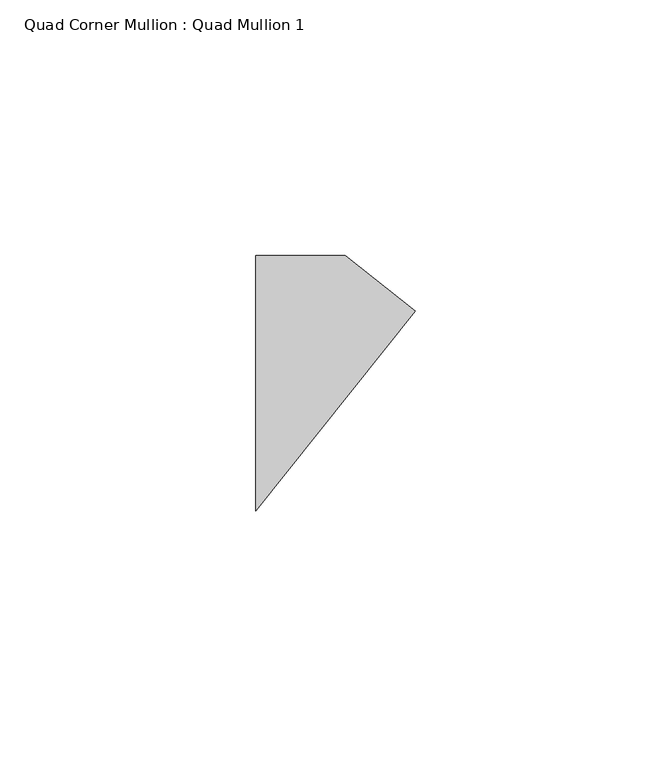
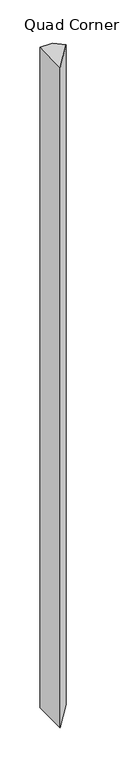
"""IFC4 building model written with IfcOpenShell, lengths in millimetres: member geometry, Quad Corner Mullion : Quad Mullion 1."""

import ifcopenshell
import ifcopenshell.guid

model = None  # the IFC model being written
_history = None  # IfcOwnerHistory: only IFC2X3 demands one
_inside = {}  # id of a spatial element -> (the spatial element, [elements in it])
_under = {}  # id of a project, library or spatial element -> (it, [spatial elements below it])
_declared = {}  # id of a project -> (the project, [libraries it declares])
_typed = {}  # id of a type object -> (the type object, [elements of that type])
_made_of = {}  # id of a material, layer set ... -> (it, [elements and type objects made of it])


def new_model(schema):
    """Start an empty IFC model of exactly this schema.

    Asked for "IFC4X3", IfcOpenShell would pick the latest addendum, in which some entities
    have other attributes; the version numbers below select the first issue.
    IFC2X3 requires an IfcOwnerHistory on every rooted entity: one is made here for all.
    """
    global model, _history
    if schema == "IFC4X3":
        model = ifcopenshell.file(schema_version=(4, 3, 0, 0))
    else:
        model = ifcopenshell.file(schema=schema)
    _inside.clear()
    _under.clear()
    _declared.clear()
    _typed.clear()
    _made_of.clear()
    _history = None
    if model.schema == "IFC2X3":
        org = make("IfcOrganization", Name="unknown")
        user = make(
            "IfcPersonAndOrganization",
            ThePerson=make("IfcPerson", FamilyName="unknown"),
            TheOrganization=org,
        )
        app = make(
            "IfcApplication",
            ApplicationDeveloper=org,
            Version="unknown",
            ApplicationFullName="unknown",
            ApplicationIdentifier="unknown",
        )
        _history = make(
            "IfcOwnerHistory",
            OwningUser=user,
            OwningApplication=app,
            ChangeAction="ADDED",
            CreationDate=0,
        )
    return model


def make(cls, **values):
    """One entity of the class cls with the attributes given. An attribute that is None is left unset."""
    return model.create_entity(
        cls, **{name: value for name, value in values.items() if value is not None}
    )


def rooted(cls, **values):
    """An entity with a GlobalId (a new one), such as an element, a storey or a relation."""
    return make(cls, GlobalId=ifcopenshell.guid.new(), OwnerHistory=_history, **values)


def si_unit(unit_type, name, prefix=None):
    """IfcSIUnit, for example si_unit("LENGTHUNIT", "METRE", prefix="MILLI")."""
    return make("IfcSIUnit", UnitType=unit_type, Prefix=prefix, Name=name)


def assignment(units):
    """IfcUnitAssignment: the units of a project."""
    return None if units is None else make("IfcUnitAssignment", Units=units)


def point(xyz):
    """IfcCartesianPoint."""
    return None if xyz is None else make("IfcCartesianPoint", Coordinates=xyz)


def direction(xyz):
    """IfcDirection."""
    return None if xyz is None else make("IfcDirection", DirectionRatios=xyz)


def frame(location, z_axis=None, x_axis=None):
    """IfcAxis2Placement3D, a coordinate frame: its origin and axes. An axis left out is left unset."""
    return make(
        "IfcAxis2Placement3D",
        Location=point(location),
        Axis=direction(z_axis),
        RefDirection=direction(x_axis),
    )


def origin():
    """The frame at (0, 0, 0) with its axes left unset."""
    return frame((0.0, 0.0, 0.0))


def place(relative_to, where):
    """IfcLocalPlacement: puts the frame where relative to a parent placement (None: the world)."""
    return make(
        "IfcLocalPlacement", PlacementRelTo=relative_to, RelativePlacement=where
    )


def context(
    kind, dimensions, precision=None, world=None, true_north=None, identifier=None
):
    """IfcGeometricRepresentationContext, for example the 3D "Model" context."""
    return make(
        "IfcGeometricRepresentationContext",
        ContextIdentifier=identifier,
        ContextType=kind,
        CoordinateSpaceDimension=dimensions,
        Precision=precision,
        WorldCoordinateSystem=world,
        TrueNorth=true_north,
    )


def project(units=None, contexts=None):
    """IfcProject with its units and contexts."""
    return rooted(
        "IfcProject",
        Name="project",
        RepresentationContexts=contexts,
        UnitsInContext=assignment(units),
    )


def spatial(cls, under=None, at=None, **own):
    """A site, building, storey or space (cls), placed at a placement, below another one or the project."""
    s = rooted(cls, ObjectPlacement=at, **own)
    if under is not None:
        _under.setdefault(under.id(), (under, []))[1].append(s)
    return s


def polyline(points):
    """IfcPolyline through the points."""
    return make("IfcPolyline", Points=[point(p) for p in points])


def outline(outer, holes=None, kind="AREA"):
    """IfcArbitraryClosedProfileDef: a profile drawn as a closed curve; with holes, ...WithVoids."""
    if holes is None:
        return make("IfcArbitraryClosedProfileDef", ProfileType=kind, OuterCurve=outer)
    return make(
        "IfcArbitraryProfileDefWithVoids",
        ProfileType=kind,
        OuterCurve=outer,
        InnerCurves=holes,
    )


def extrude(swept, where, along, depth):
    """IfcExtrudedAreaSolid: the profile swept, set in the frame where, extruded along a direction by depth."""
    return make(
        "IfcExtrudedAreaSolid",
        SweptArea=swept,
        Position=where,
        ExtrudedDirection=direction(along),
        Depth=depth,
    )


def shape(context_of_items, identifier, shape_type, items):
    """IfcShapeRepresentation: the items that make up one representation, for example the "Body"."""
    return make(
        "IfcShapeRepresentation",
        ContextOfItems=context_of_items,
        RepresentationIdentifier=identifier,
        RepresentationType=shape_type,
        Items=items,
    )


def source(mapping_origin, context_of_items, identifier, shape_type, items):
    """IfcRepresentationMap: a shape defined once, which mapped items show again and again."""
    return make(
        "IfcRepresentationMap",
        MappingOrigin=mapping_origin,
        MappedRepresentation=shape(context_of_items, identifier, shape_type, items),
    )


def transform(
    local_origin,
    x_axis=None,
    y_axis=None,
    z_axis=None,
    scale=None,
    scale2=None,
    scale3=None,
    uniform=True,
):
    """IfcCartesianTransformationOperator3D, or its non-uniform kind. x_axis, y_axis, z_axis: its Axis1, 2, 3."""
    if uniform:
        return make(
            "IfcCartesianTransformationOperator3D",
            Axis1=direction(x_axis),
            Axis2=direction(y_axis),
            LocalOrigin=point(local_origin),
            Scale=scale,
            Axis3=direction(z_axis),
        )
    return make(
        "IfcCartesianTransformationOperator3DnonUniform",
        Axis1=direction(x_axis),
        Axis2=direction(y_axis),
        LocalOrigin=point(local_origin),
        Scale=scale,
        Axis3=direction(z_axis),
        Scale2=scale2,
        Scale3=scale3,
    )


def mapped(mapping_source, mapping_target):
    """IfcMappedItem: shows the shape of a source again, moved by a transform."""
    return make(
        "IfcMappedItem", MappingSource=mapping_source, MappingTarget=mapping_target
    )


def made_of(thing, what):
    """Note that an element or type object is made of a material, layer set ...; save() writes the relation."""
    if what is not None:
        _made_of.setdefault(what.id(), (what, []))[1].append(thing)
    return thing


def element(
    cls,
    number,
    at=None,
    inside=None,
    cuts=None,
    type_object=None,
    material=None,
    context=None,
    identifier="Body",
    shape_type=None,
    held_by="IfcProductDefinitionShape",
    body=None,
    shapes=None,
    **own,
):
    """One element of the class cls, such as IfcWall. Its Tag is "e" and its number.

    at: its placement. inside: the storey or other place that contains it. cuts: it is an
    opening in that element (IfcRelVoidsElement). A single representation is given by context,
    identifier, shape_type and body (its items); several are given by shapes. held_by: the class
    of the entity that holds the representations. save() writes the other relations.
    """
    e = rooted(cls, Tag="e%d" % number, ObjectPlacement=at, **own)
    if body is not None:
        shapes = [shape(context, identifier, shape_type, body)]
    if shapes is not None:
        e.Representation = make(held_by, Representations=shapes)
    if inside is not None:
        _inside.setdefault(inside.id(), (inside, []))[1].append(e)
    if cuts is not None:
        rooted(
            "IfcRelVoidsElement", RelatingBuildingElement=cuts, RelatedOpeningElement=e
        )
    if type_object is not None:
        _typed.setdefault(type_object.id(), (type_object, []))[1].append(e)
    return made_of(e, material)


def aggregate(whole, parts):
    """IfcRelAggregates: a whole, such as a stair, and the parts it consists of."""
    return rooted("IfcRelAggregates", RelatingObject=whole, RelatedObjects=parts)


def save(model, path):
    """Write the relations noted so far, then the file.

    IfcRelAggregates (storeys below a building ...), IfcRelContainedInSpatialStructure (elements
    in a storey), IfcRelDefinesByType, IfcRelAssociatesMaterial and IfcRelDeclares: one each for
    every whole, place, type object, material and project.
    """
    for whole, parts in _under.values():
        aggregate(whole, parts)
    for where, things in _inside.values():
        rooted(
            "IfcRelContainedInSpatialStructure",
            RelatedElements=things,
            RelatingStructure=where,
        )
    for kind, things in _typed.values():
        rooted("IfcRelDefinesByType", RelatedObjects=things, RelatingType=kind)
    for what, things in _made_of.values():
        rooted("IfcRelAssociatesMaterial", RelatedObjects=things, RelatingMaterial=what)
    for by, libraries in _declared.values():
        rooted("IfcRelDeclares", RelatingContext=by, RelatedDefinitions=libraries)
    model.write(path)


def quad_corner_mullion_quad_mullion_1_8637eb4b(model_context):
    return source(origin(), model_context, "Body", "SweptSolid", [
        extrude(outline(polyline([(22.4169637, 14.1035695), (-8.7424787, -25.0), (-8.7424787, 25.0), (8.7424787, 25.0), (22.4169637, 14.1035695)])), frame((0.0, 0.0, -1000.0), z_axis=(0.0, 0.0, 1.0), x_axis=(1.0, 0.0, 0.0)), (0.0, 0.0, 1.0), 1000.0),
    ])


if __name__ == "__main__":
    model = new_model("IFC4")
    model_context = context("Model", 3, world=origin())
    ifc_project = project(units=[si_unit("LENGTHUNIT", "METRE", prefix="MILLI")], contexts=[model_context])
    site = spatial("IfcSite", under=ifc_project)
    building = spatial("IfcBuilding", under=site)
    placement = place(None, origin())
    quad_corner_mullion_quad_mullion_1_shape = quad_corner_mullion_quad_mullion_1_8637eb4b(model_context)
    element("IfcMember", 1, ObjectType="Quad Corner Mullion : Quad Mullion 1", at=placement, inside=building, context=model_context, shape_type="MappedRepresentation", body=[
        mapped(quad_corner_mullion_quad_mullion_1_shape, transform((0.0, 0.0, 0.0), x_axis=(1.0, 0.0, 0.0), y_axis=(0.0, 1.0, 0.0), z_axis=(0.0, 0.0, 1.0))),
    ])
    save(model, "model.ifc")
